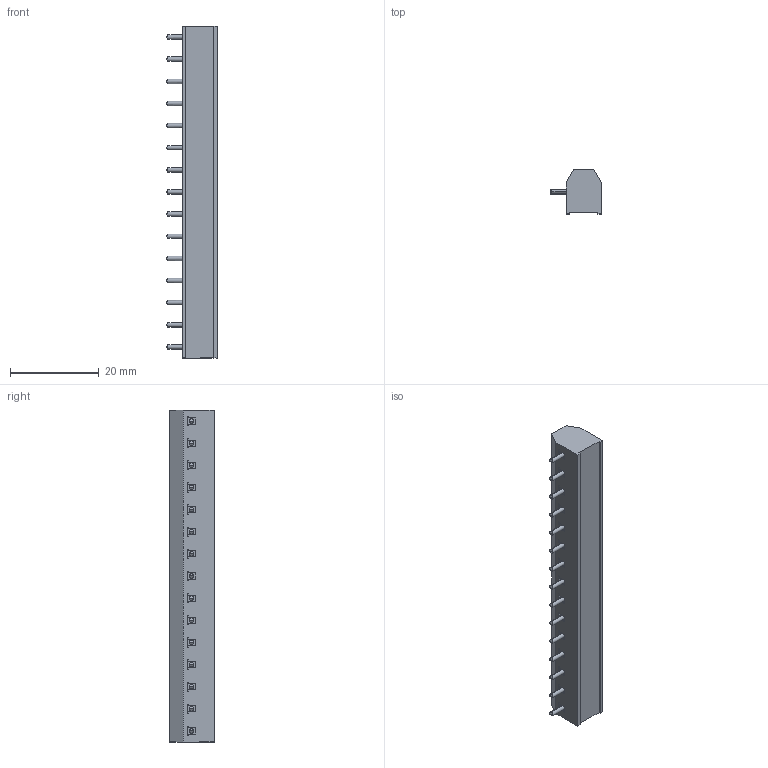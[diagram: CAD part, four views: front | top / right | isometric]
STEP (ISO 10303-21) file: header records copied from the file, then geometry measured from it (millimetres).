
FILE_DESCRIPTION (( 'STEP AP214' ), '1' );
FILE_NAME ('951-HG-DS-15.STEP', '2008-02-29T02:43:45', ( ' ' ), ( '' ), 'SwSTEP 2.0', 'SolidWorks 2007', '' );
FILE_SCHEMA (( 'AUTOMOTIVE_DESIGN' ));
Length unit declared in the file: millimetre
Products named in the file (1): 951-HG-DS-15
Bounding box: 11.5 x 10 x 75 mm (x, y, z)
Volume: 4802.9 mm3; surface area: 4403 mm2
Topology: 1 solids, 1 shells, 1082 faces, 3435 edges, 2280 vertices
Faces by surface type: plane 867, cylinder 155, cone 30, bspline 30
Entity records: 39339 total; most frequent: CARTESIAN_POINT 9255, ORIENTED_EDGE 6870, DIRECTION 5656, EDGE_CURVE 3435, LINE 2330, VECTOR 2330, VERTEX_POINT 2280, AXIS2_PLACEMENT_3D 1663
